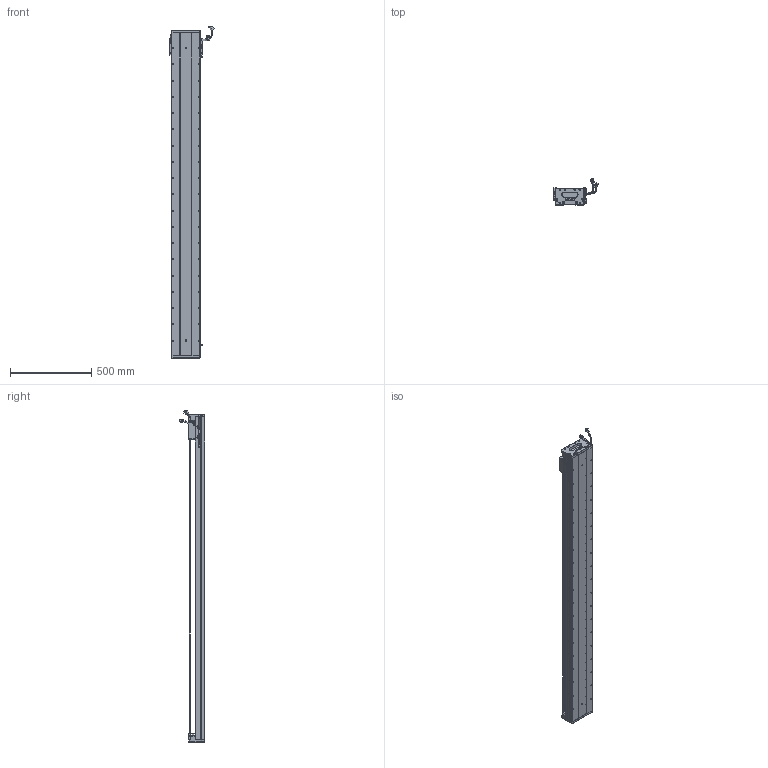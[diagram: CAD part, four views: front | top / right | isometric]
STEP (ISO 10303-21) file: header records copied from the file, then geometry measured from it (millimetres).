
FILE_DESCRIPTION (( 'STEP AP203' ), '1' );
FILE_NAME ('Z1-RY170D-1-L500-B-K.SLDASM_1800.step', '2021-05-17T08:53:55', ( '盈信电脑' ), ( '东莞市道滘镇水果街19号' ), 'SwSTEP 2.0', 'SolidWorks 2016', '' );
FILE_SCHEMA (( 'CONFIG_CONTROL_DESIGN' ));
Length unit declared in the file: millimetre
Products named in the file (36): SCREW-M1.6-1; HARNESS-Part-2; PSLH080_PSLF2; RY170直线电机感应器672光电感应片; SCREW-M1.6-2; SHIELDPLATE; SCREW-M1.7; Z1-RY170-L500耀郪菁釱_1800; HARNESS; LABEL-Part-1; Z-RY170詩湍奻揤裔; Z1-RY170臏賑輸(21遴); 140雄赽晤鎢ん堤盄; SCREW-M1.6-3; Z1-RY170D-1-L500-B-K.SLDASM_1800; HARNESS-Part-1; Z1-RY170-L500詩湍145mm遵_1800; SCALE-Part-1; SCALE-Part-2; 140蚥薯蝶輸; SEAL; 覜茼ん672; PBU_SHEET; LABEL; 170-Z-臏賑輸盄裔(21遴); Z-RY170詩湍狟揤裔; 080黍杅芛假蚾釱21遴; SCREW-M1.6; COVER-Part-1; Z-170詩湍傷裔啣; SCALE; 榋妏寠巭燃_暯_M2_2; HOLDER0; SEAL-Part-1; COVER; SCREW-M1.7-1
Assembly tree (41 placements, depth 4):
  Z1-RY170D-1-L500-B-K.SLDASM_1800
    Z1-RY170-L500耀郪菁釱_1800
    RY170直线电机感应器672光电感应片
    Z1-RY170臏賑輸(21遴)
    覜茼ん672  x3
    PSLH080_PSLF2
      SCALE
        SCALE-Part-1
        SCALE-Part-2
      HARNESS
        HARNESS-Part-1
        HARNESS-Part-2
      LABEL
        LABEL-Part-1
      COVER
        COVER-Part-1
      SEAL
        SEAL-Part-1
      榋妏寠巭燃_暯_M2_2
      SHIELDPLATE
      SCREW-M1.7
      SCREW-M1.7-1
      PBU_SHEET
      SCREW-M1.6
      SCREW-M1.6-1
      SCREW-M1.6-2
      SCREW-M1.6-3
      HOLDER0
    080黍杅芛假蚾釱21遴
    Z1-RY170-L500詩湍145mm遵_1800
    Z-170詩湍傷裔啣  x2
    Z-RY170詩湍奻揤裔  x2
    Z-RY170詩湍狟揤裔  x2
    140蚥薯蝶輸  x2
    170-Z-臏賑輸盄裔(21遴)
    140雄赽晤鎢ん堤盄
Bounding box: 275.34 x 158.11 x 2043.72 mm (x, y, z)
Volume: 10011836.2 mm3; surface area: 2497619.6 mm2
Topology: 36 solids, 36 shells, 3544 faces, 9711 edges, 6077 vertices
Faces by surface type: cylinder 1718, plane 1228, cone 476, torus 69, bspline 53
Entity records: 108683 total; most frequent: CARTESIAN_POINT 29594, ORIENTED_EDGE 16042, DIRECTION 15197, EDGE_CURVE 8021, AXIS2_PLACEMENT_3D 5570, VERTEX_POINT 5195, VECTOR 4057, LINE 4057
